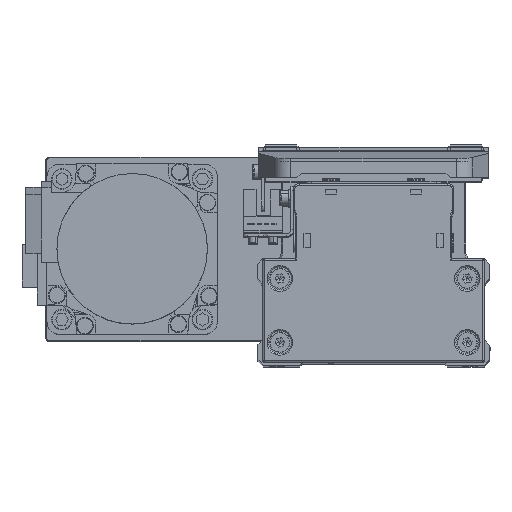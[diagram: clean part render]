
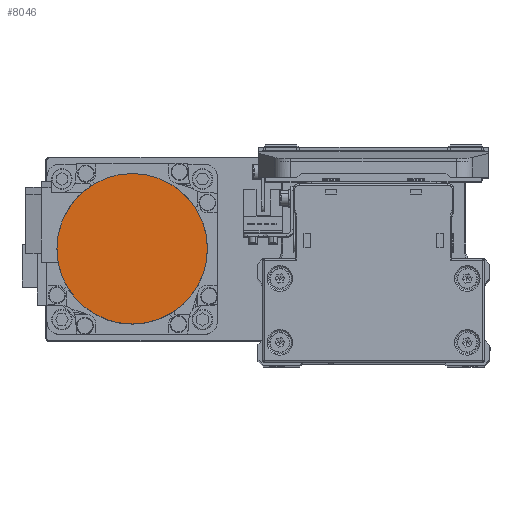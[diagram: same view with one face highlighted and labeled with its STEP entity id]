
A CAD part, top view. The second image highlights one B-rep face of the part: STEP entity #8046.
In plain terms, the highlighted planar face has unit normal (0, 0, 1) as drawn and (0, 0, -1) by its records, which use the part's own axes.
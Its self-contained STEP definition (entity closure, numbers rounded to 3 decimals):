
#784 = DIRECTION ( 'NONE',  ( 1., 0., 0. ) ) ;
#3062 = DIRECTION ( 'NONE',  ( 0., 0., 1. ) ) ;
#3842 = PLANE ( 'NONE',  #33424 ) ;
#4722 = VERTEX_POINT ( 'NONE', #27390 ) ;
#5533 = VERTEX_POINT ( 'NONE', #14234 ) ;
#8046 = ADVANCED_FACE ( 'NONE', ( #31835 ), #3842, .F. ) ;
#9370 = ORIENTED_EDGE ( 'NONE', *, *, #10004, .F. ) ;
#9453 = CIRCLE ( 'NONE', #37513, 26.5 ) ;
#9813 = EDGE_LOOP ( 'NONE', ( #9370, #36957 ) ) ;
#10004 = EDGE_CURVE ( 'NONE', #5533, #4722, #9453, .T. ) ;
#14234 = CARTESIAN_POINT ( 'NONE',  ( -26.5, 0., -109.7 ) ) ;
#15424 = CARTESIAN_POINT ( 'NONE',  ( 0., 0., -109.7 ) ) ;
#15536 = DIRECTION ( 'NONE',  ( -1., 0., 0. ) ) ;
#15620 = AXIS2_PLACEMENT_3D ( 'NONE', #15424, #27867, #40346 ) ;
#16316 = CARTESIAN_POINT ( 'NONE',  ( 0., 0., -109.7 ) ) ;
#27390 = CARTESIAN_POINT ( 'NONE',  ( 26.5, 0., -109.7 ) ) ;
#27867 = DIRECTION ( 'NONE',  ( 0., 0., 1. ) ) ;
#28773 = DIRECTION ( 'NONE',  ( 0., 0., 1. ) ) ;
#31069 = CARTESIAN_POINT ( 'NONE',  ( 0., 0., -109.7 ) ) ;
#31835 = FACE_OUTER_BOUND ( 'NONE', #9813, .T. ) ;
#33206 = CIRCLE ( 'NONE', #15620, 26.5 ) ;
#33424 = AXIS2_PLACEMENT_3D ( 'NONE', #16316, #28773, #784 ) ;
#36957 = ORIENTED_EDGE ( 'NONE', *, *, #37905, .F. ) ;
#37513 = AXIS2_PLACEMENT_3D ( 'NONE', #31069, #3062, #15536 ) ;
#37905 = EDGE_CURVE ( 'NONE', #4722, #5533, #33206, .T. ) ;
#40346 = DIRECTION ( 'NONE',  ( 1., 0., 0. ) ) ;
